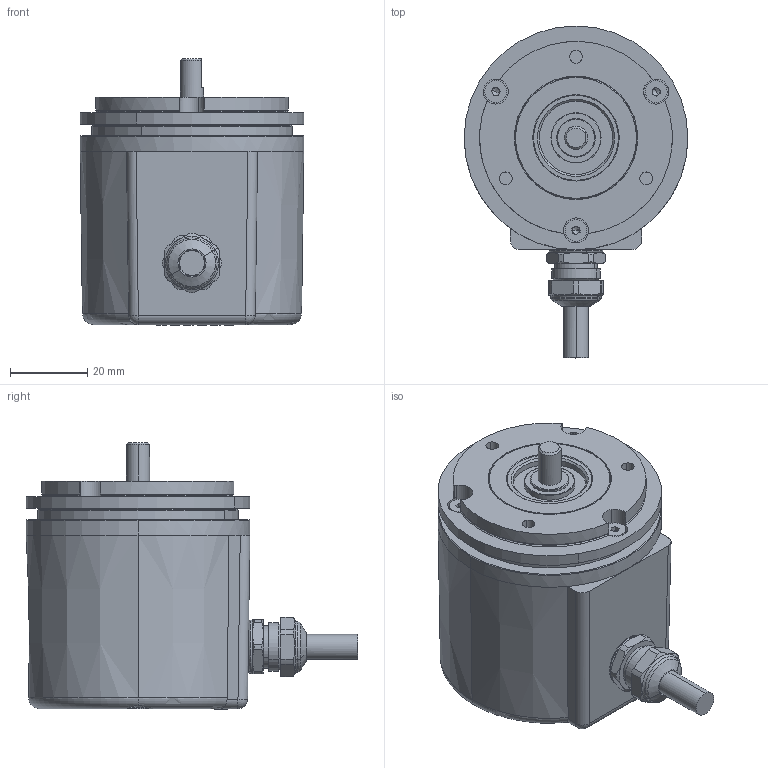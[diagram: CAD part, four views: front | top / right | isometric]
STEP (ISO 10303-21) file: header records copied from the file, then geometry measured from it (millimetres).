
FILE_DESCRIPTION (( 'STEP AP203' ), '1' );
FILE_NAME ('E58CM-SSI-132##.STEP', '2023-09-26T14:50:27', ( '' ), ( '' ), 'SwSTEP 2.0', 'SolidWorks 2021', '' );
FILE_SCHEMA (( 'CONFIG_CONTROL_DESIGN' ));
Length unit declared in the file: millimetre
Products named in the file (1): E58CM-SSI-132##
Bounding box: 58 x 85.99 x 69.2 mm (x, y, z)
Volume: 151652.4 mm3; surface area: 23399 mm2
Topology: 6 solids, 10 shells, 504 faces, 1198 edges, 729 vertices
Faces by surface type: plane 231, cylinder 121, cone 93, torus 53, sphere 6
Entity records: 15024 total; most frequent: CARTESIAN_POINT 3198, DIRECTION 2583, ORIENTED_EDGE 2364, EDGE_CURVE 1182, AXIS2_PLACEMENT_3D 996, VERTEX_POINT 729, VECTOR 591, LINE 591
